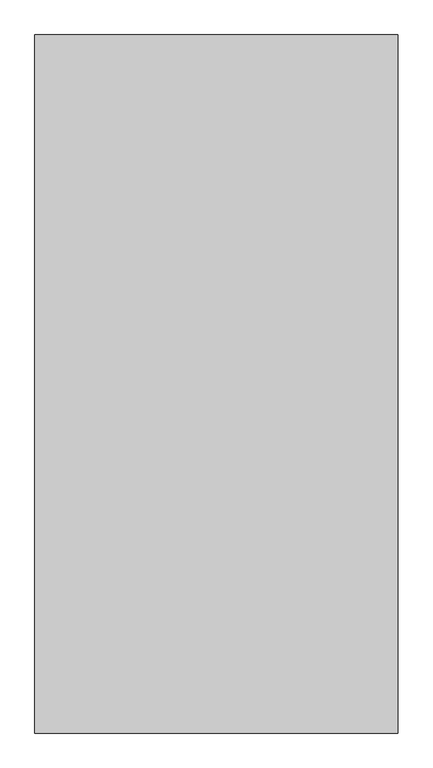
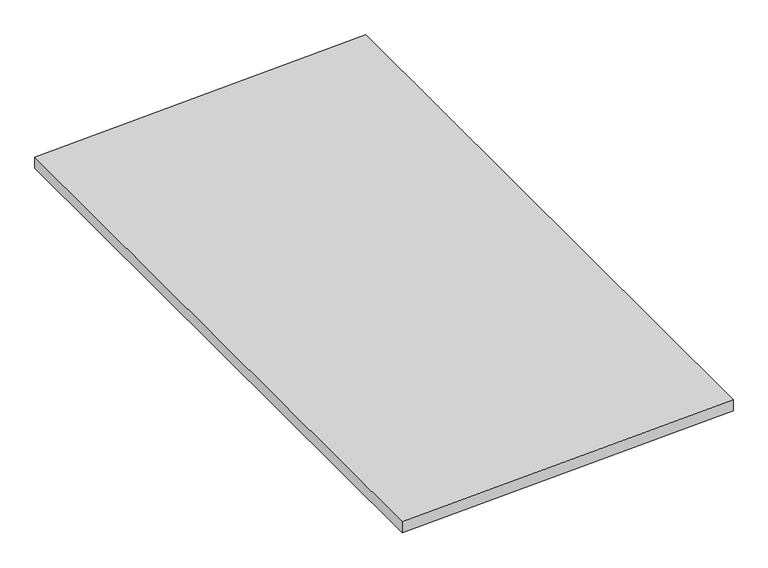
"""IFC4 building model written with IfcOpenShell, lengths in millimetres: proxy geometry, Béton de propreté DT C0 : Béton de propreté 02."""

from ifc_helpers import new_model, si_unit, frame, origin, place, context, project, spatial, polyline, outline, extrude, source, transform, mapped, element, save


def generic_models_05d79722(model_context):
    return source(origin(), model_context, "Body", "SweptSolid", [
        extrude(outline(polyline([(4098.4, -7430.0), (3986.0, -10240.0), (3886.0, -10240.0), (3998.4, -7430.0), (4098.4, -7430.0)])), frame((0.0, -2700.0, 0.0), z_axis=(0.0, 1.0, 0.0), x_axis=(0.0, 0.0, 1.0)), (0.0, 0.0, 1.0), 5400.0),
    ])


if __name__ == "__main__":
    model = new_model("IFC4")
    model_context = context("Model", 3, world=origin())
    ifc_project = project(units=[si_unit("LENGTHUNIT", "METRE", prefix="MILLI")], contexts=[model_context])
    site = spatial("IfcSite", under=ifc_project)
    building = spatial("IfcBuilding", under=site)
    placement = place(None, origin())
    generic_models_shape = generic_models_05d79722(model_context)
    element("IfcBuildingElementProxy", 1, Name="Béton de propreté DT C0 : Béton de propreté 02", ObjectType="Béton de propreté DT C0 : Béton de propreté 02", at=placement, inside=building, context=model_context, shape_type="MappedRepresentation", body=[
        mapped(generic_models_shape, transform((0.0, 0.0, 0.0), x_axis=(1.0, 0.0, 0.0), y_axis=(0.0, 1.0, 0.0), z_axis=(0.0, 0.0, 1.0))),
    ])
    save(model, "model.ifc")
